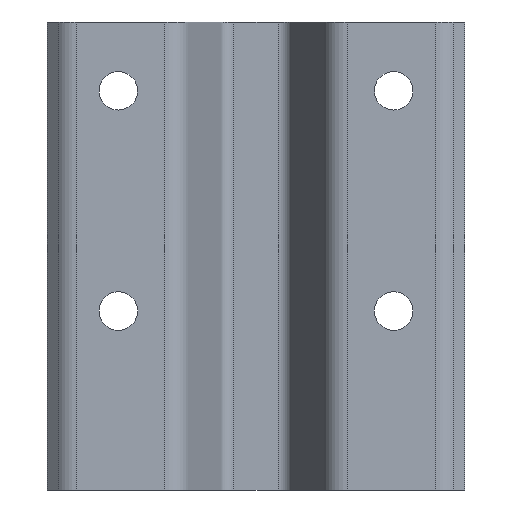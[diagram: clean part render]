
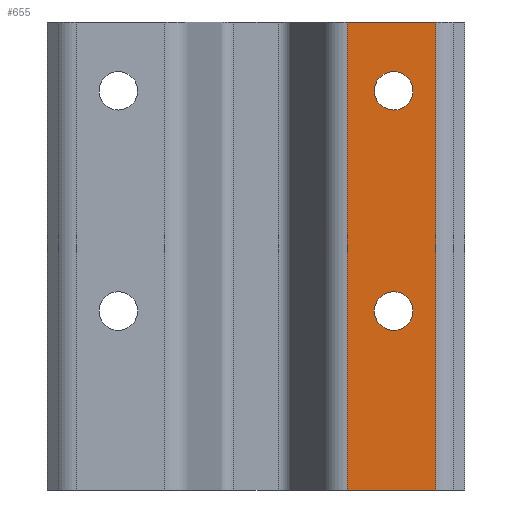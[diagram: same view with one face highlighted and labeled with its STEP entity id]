
A CAD part, front view. The second image highlights one B-rep face of the part: STEP entity #655.
In plain terms, the highlighted planar face has unit normal (0, -1, 0).
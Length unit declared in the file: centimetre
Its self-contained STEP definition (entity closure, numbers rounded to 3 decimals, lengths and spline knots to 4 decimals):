
#18=FACE_BOUND('',#88,.T.);
#19=FACE_BOUND('',#89,.T.);
#29=PLANE('',#701);
#51=FACE_OUTER_BOUND('',#87,.T.);
#87=EDGE_LOOP('',(#476,#477,#478,#479));
#88=EDGE_LOOP('',(#480));
#89=EDGE_LOOP('',(#481));
#137=LINE('',#1006,#201);
#138=LINE('',#1010,#202);
#139=LINE('',#1012,#203);
#140=LINE('',#1013,#204);
#201=VECTOR('',#805,0.1);
#202=VECTOR('',#810,0.1);
#203=VECTOR('',#811,0.1);
#204=VECTOR('',#812,0.1);
#256=CIRCLE('',#702,0.7);
#257=CIRCLE('',#703,0.7);
#298=VERTEX_POINT('',#1003);
#299=VERTEX_POINT('',#1005);
#300=VERTEX_POINT('',#1009);
#301=VERTEX_POINT('',#1011);
#302=VERTEX_POINT('',#1014);
#303=VERTEX_POINT('',#1016);
#370=EDGE_CURVE('',#299,#298,#137,.T.);
#372=EDGE_CURVE('',#298,#300,#138,.T.);
#373=EDGE_CURVE('',#301,#300,#139,.T.);
#374=EDGE_CURVE('',#301,#299,#140,.T.);
#375=EDGE_CURVE('',#302,#302,#256,.T.);
#376=EDGE_CURVE('',#303,#303,#257,.T.);
#476=ORIENTED_EDGE('',*,*,#372,.T.);
#477=ORIENTED_EDGE('',*,*,#373,.F.);
#478=ORIENTED_EDGE('',*,*,#374,.T.);
#479=ORIENTED_EDGE('',*,*,#370,.T.);
#480=ORIENTED_EDGE('',*,*,#375,.T.);
#481=ORIENTED_EDGE('',*,*,#376,.T.);
#655=ADVANCED_FACE('',(#51,#18,#19),#29,.T.);
#701=AXIS2_PLACEMENT_3D('',#1008,#808,#809);
#702=AXIS2_PLACEMENT_3D('',#1015,#813,#814);
#703=AXIS2_PLACEMENT_3D('',#1017,#815,#816);
#805=DIRECTION('',(0.,0.,1.));
#808=DIRECTION('center_axis',(0.,-1.,0.));
#809=DIRECTION('ref_axis',(1.,0.,0.));
#810=DIRECTION('',(-1.,0.,0.));
#811=DIRECTION('',(0.,0.,1.));
#812=DIRECTION('',(1.,0.,0.));
#813=DIRECTION('center_axis',(0.,1.,0.));
#814=DIRECTION('ref_axis',(1.,0.,0.));
#815=DIRECTION('center_axis',(0.,1.,0.));
#816=DIRECTION('ref_axis',(1.,0.,0.));
#1003=CARTESIAN_POINT('',(-49.4706,35.6396,17.));
#1005=CARTESIAN_POINT('',(-49.4706,35.6396,0.));
#1006=CARTESIAN_POINT('',(-49.4706,35.6396,0.));
#1008=CARTESIAN_POINT('Origin',(-50.9958,35.6396,4.7));
#1009=CARTESIAN_POINT('',(-52.685,35.6396,17.));
#1010=CARTESIAN_POINT('',(-52.685,35.6396,17.));
#1011=CARTESIAN_POINT('',(-52.685,35.6396,0.));
#1012=CARTESIAN_POINT('',(-52.685,35.6396,0.));
#1013=CARTESIAN_POINT('',(-52.685,35.6396,0.));
#1014=CARTESIAN_POINT('',(-51.6958,35.6396,6.5));
#1015=CARTESIAN_POINT('Origin',(-50.9958,35.6396,6.5));
#1016=CARTESIAN_POINT('',(-51.6958,35.6396,14.5));
#1017=CARTESIAN_POINT('Origin',(-50.9958,35.6396,14.5));
